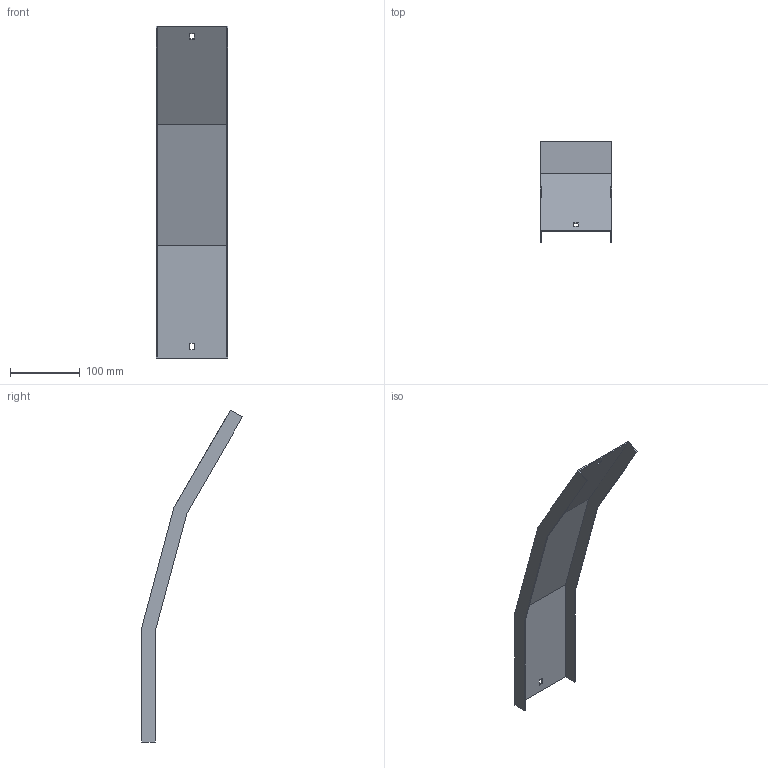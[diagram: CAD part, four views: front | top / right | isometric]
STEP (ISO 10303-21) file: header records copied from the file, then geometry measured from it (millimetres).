
FILE_DESCRIPTION (( 'STEP AP214' ), '1' );
FILE_NAME ('A2_35N3C100.step', '2025-02-21T10:30:03', ( '' ), ( '' ), 'SwSTEP 2.0', 'SolidWorks 2023', '' );
FILE_SCHEMA (( 'AUTOMOTIVE_DESIGN' ));
Length unit declared in the file: millimetre
Products named in the file (1): A2_35N3C100
Bounding box: 103 x 145.29 x 477.6 mm (x, y, z)
Volume: 105611.1 mm3; surface area: 142813.9 mm2
Topology: 1 solids, 1 shells, 26 faces, 72 edges, 48 vertices
Faces by surface type: plane 26
Entity records: 847 total; most frequent: CARTESIAN_POINT 147, ORIENTED_EDGE 144, DIRECTION 126, VECTOR 72, LINE 72, EDGE_CURVE 72, VERTEX_POINT 48, EDGE_LOOP 30
